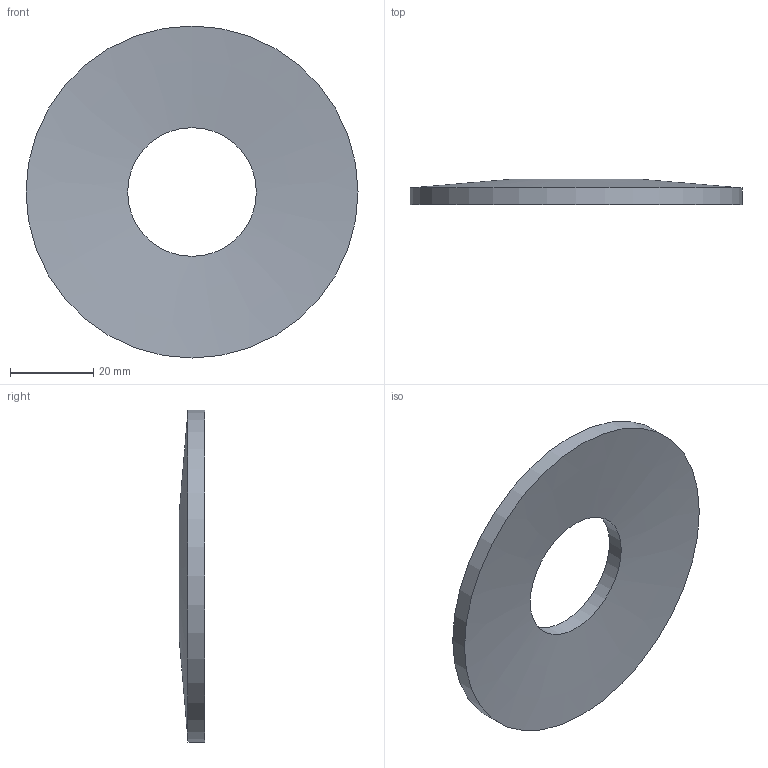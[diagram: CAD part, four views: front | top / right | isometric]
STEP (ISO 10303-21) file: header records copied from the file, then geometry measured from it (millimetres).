
FILE_DESCRIPTION(/* description */ ('19447N'),/* implementation_level */ '2;1');
FILE_NAME(/* name */ 'ST.0800.0310.0400.step',/* time_stamp */ '2026-09-18T10:33:19+02:00',/* author */ ('impex-ready.pl'),/* organization */ ('ST.0800.0310.0400'),/* preprocessor_version */ 'ST-DEVELOPER v20.1',/* originating_system */ 'Autodesk Inventor 2026',/* authorisation */ 'Ugiecie 0,75 h0 = 1.58');
FILE_SCHEMA (('AUTOMOTIVE_DESIGN { 1 0 10303 214 3 1 1 }'));
Length unit declared in the file: millimetre
Products named in the file (1): ST.0800.0310.0400
Bounding box: 80 x 6.1 x 80 mm (x, y, z)
Volume: 17148.9 mm3; surface area: 9974.4 mm2
Topology: 1 solids, 1 shells, 4 faces, 8 edges, 4 vertices
Faces by surface type: cone 2, cylinder 2
Full cylindrical faces by diameter (mm): 31 x1, 80 x1
Entity records: 151 total; most frequent: DIRECTION 22, CARTESIAN_POINT 17, ORIENTED_EDGE 16, AXIS2_PLACEMENT_3D 9, EDGE_CURVE 8, FACE_OUTER_BOUND 4, EDGE_LOOP 4, LINE 4
